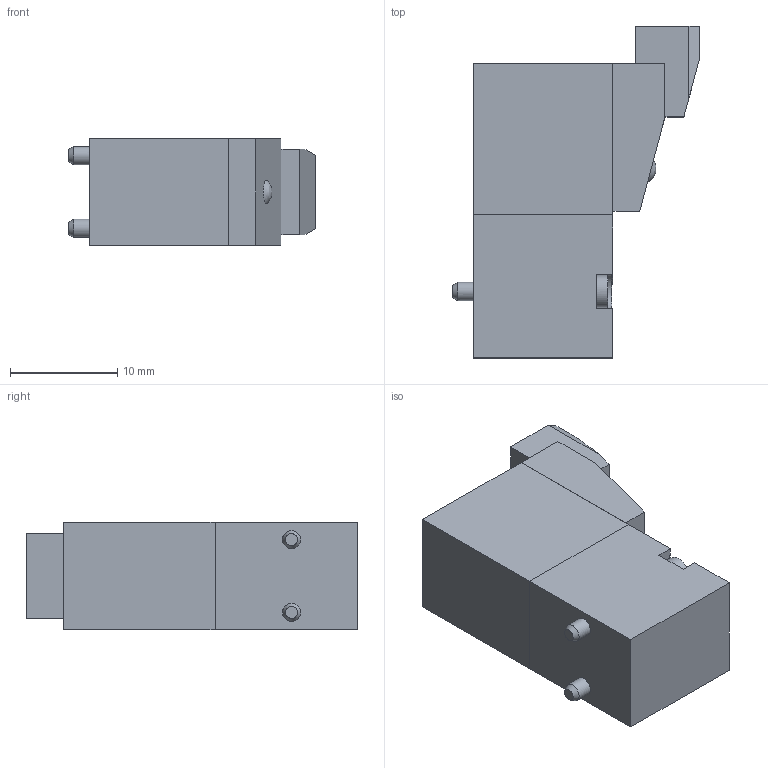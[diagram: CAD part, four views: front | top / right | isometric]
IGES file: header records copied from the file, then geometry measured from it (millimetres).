
Global section: file name: P3##.3; native system: Autodesk Inventor 2014; preprocessor: unknown; author: A. Manieri; organization: Pneumax S.p.A.; date: 20160902.102242; units: millimetre
Bounding box: 23.1 x 31 x 10 mm (x, y, z)
Volume: 4275.6 mm3; surface area: 2048.9 mm2
Topology: 1 solids, 1 shells, 90 faces, 227 edges, 149 vertices
Faces by surface type: bspline 90
